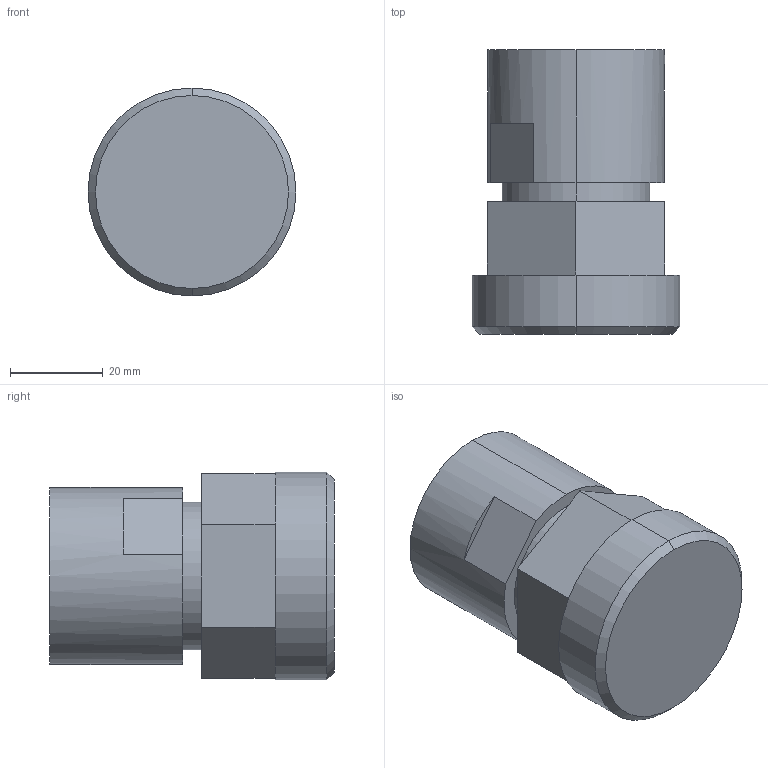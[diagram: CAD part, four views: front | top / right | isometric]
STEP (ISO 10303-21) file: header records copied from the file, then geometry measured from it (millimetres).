
FILE_DESCRIPTION (( 'STEP AP214' ), '1' );
FILE_NAME ('12-fnpt-with-top-mount-adapter.STEP', '2012-11-27T18:11:32', ( '' ), ( '' ), 'SwSTEP 2.0', 'SolidWorks 2012', '' );
FILE_SCHEMA (( 'AUTOMOTIVE_DESIGN' ));
Length unit declared in the file: inch
Products named in the file (1): 12-fnpt-with-top-mount-adapter
Bounding box: 44.7 x 61.21 x 44.7 mm (x, y, z)
Volume: 68755.6 mm3; surface area: 12628.2 mm2
Topology: 1 solids, 1 shells, 26 faces, 58 edges, 38 vertices
Faces by surface type: plane 16, cylinder 8, cone 2
Entity records: 807 total; most frequent: DIRECTION 134, CARTESIAN_POINT 123, ORIENTED_EDGE 116, EDGE_CURVE 58, AXIS2_PLACEMENT_3D 49, VERTEX_POINT 38, LINE 36, VECTOR 36
